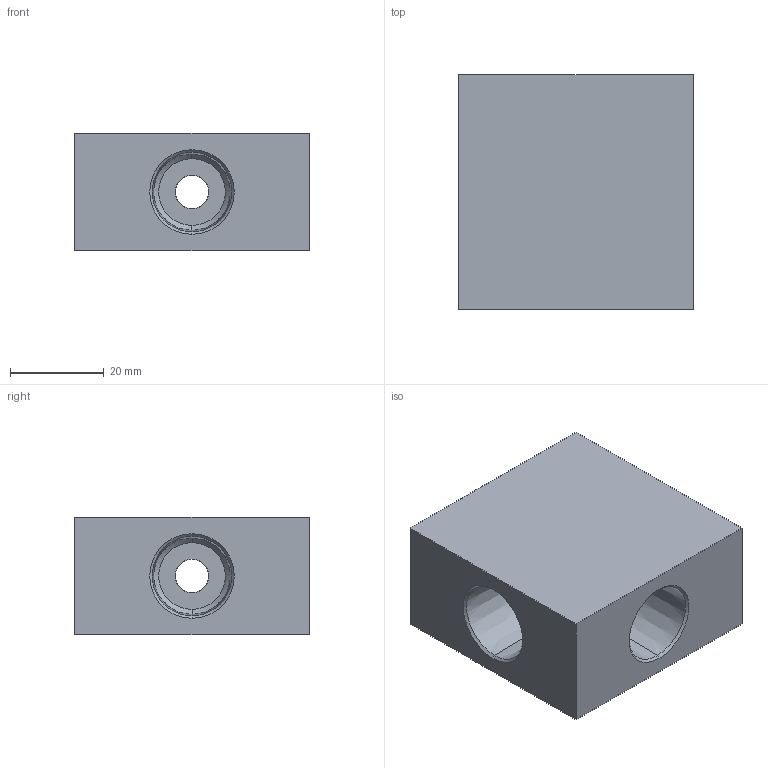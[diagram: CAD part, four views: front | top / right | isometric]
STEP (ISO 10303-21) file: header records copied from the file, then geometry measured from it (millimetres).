
FILE_DESCRIPTION (( 'STEP AP203' ), '1' );
FILE_NAME ('FTNCS06.STEP', '2026-06-26T00:53:20', ( 'USER' ), ( '' ), 'SwSTEP 2.0', 'SolidWorks 2023', '' );
FILE_SCHEMA (( 'CONFIG_CONTROL_DESIGN' ));
Length unit declared in the file: millimetre
Products named in the file (1): FTNCS06
Bounding box: 50 x 50 x 25 mm (x, y, z)
Volume: 47894.4 mm3; surface area: 13470.4 mm2
Topology: 1 solids, 1 shells, 50 faces, 104 edges, 58 vertices
Faces by surface type: cone 24, cylinder 16, plane 10
Entity records: 1393 total; most frequent: DIRECTION 250, CARTESIAN_POINT 225, ORIENTED_EDGE 208, EDGE_CURVE 104, AXIS2_PLACEMENT_3D 99, VERTEX_POINT 58, EDGE_LOOP 58, VECTOR 52
